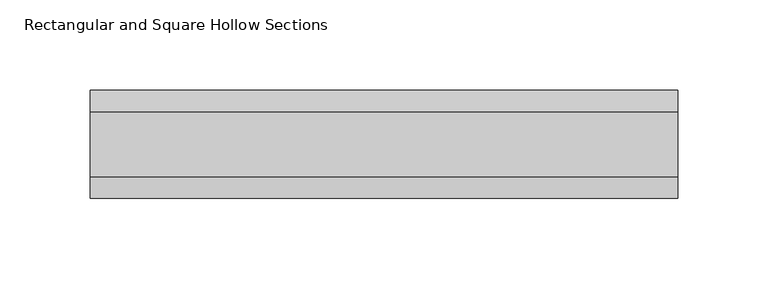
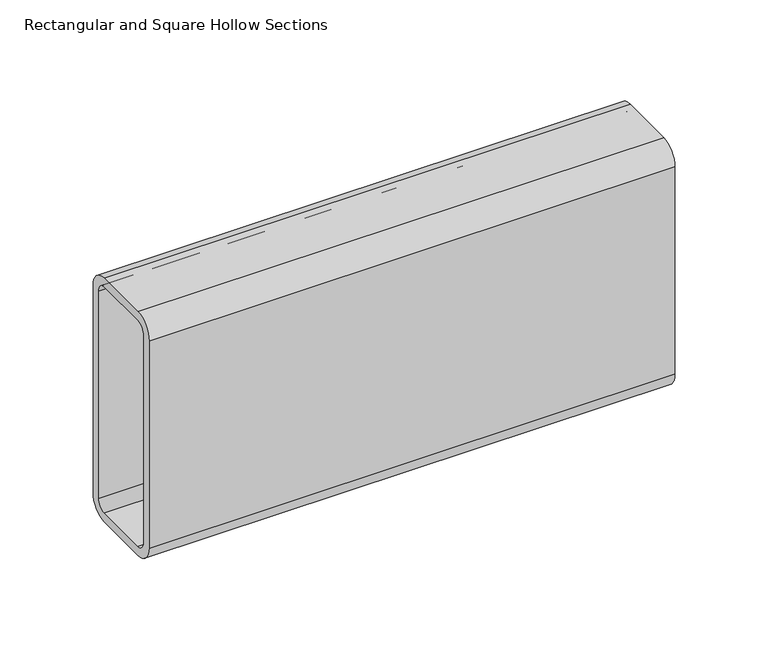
"""IFC4 building model written with IfcOpenShell, lengths in millimetres: beam geometry, Rectangular and Square Hollow Sections : TREC160x60x6."""

from ifc_helpers import new_model, si_unit, point, frame, frame_2d, origin, place, context, project, spatial, polyline, circle_curve, trimmed, segment, composite_curve, outline, extrude, source, transform, mapped, element, save


def rectangular_and_square_hollow_sections_1d2b6f73(model_context):
    return source(origin(), model_context, "Body", "SweptSolid", [
        extrude(outline(composite_curve([segment(polyline([(30.0, 68.0), (30.0, -68.0)]), True, "CONTINUOUS"), segment(trimmed(circle_curve(frame_2d((18.0, -68.0)), 12.0), [point((30.0, -68.0))], [point((18.0, -80.0))], False, "CARTESIAN"), True, "CONTINUOUS"), segment(polyline([(18.0, -80.0), (-18.0, -80.0)]), True, "CONTINUOUS"), segment(trimmed(circle_curve(frame_2d((-18.0, -68.0)), 12.0), [point((-18.0, -80.0))], [point((-30.0, -68.0))], False, "CARTESIAN"), True, "CONTINUOUS"), segment(polyline([(-30.0, -68.0), (-30.0, 68.0)]), True, "CONTINUOUS"), segment(trimmed(circle_curve(frame_2d((-18.0, 68.0)), 12.0), [point((-30.0, 68.0))], [point((-18.0, 80.0))], False, "CARTESIAN"), True, "CONTINUOUS"), segment(polyline([(-18.0, 80.0), (18.0, 80.0)]), True, "CONTINUOUS"), segment(trimmed(circle_curve(frame_2d((18.0, 68.0)), 12.0), [point((18.0, 80.0))], [point((30.0, 68.0))], False, "CARTESIAN"), True, "CONTINUOUS")], self_intersect=False), holes=[composite_curve([segment(trimmed(circle_curve(frame_2d((-18.0, 68.0)), 6.0), [point((-18.0, 74.0))], [point((-24.0, 68.0))], True, "CARTESIAN"), True, "CONTINUOUS"), segment(polyline([(-24.0, 68.0), (-24.0, -68.0)]), True, "CONTINUOUS"), segment(trimmed(circle_curve(frame_2d((-18.0, -68.0)), 6.0), [point((-24.0, -68.0))], [point((-18.0, -74.0))], True, "CARTESIAN"), True, "CONTINUOUS"), segment(polyline([(-18.0, -74.0), (18.0, -74.0)]), True, "CONTINUOUS"), segment(trimmed(circle_curve(frame_2d((18.0, -68.0)), 6.0), [point((18.0, -74.0))], [point((24.0, -68.0))], True, "CARTESIAN"), True, "CONTINUOUS"), segment(polyline([(24.0, -68.0), (24.0, 68.0)]), True, "CONTINUOUS"), segment(trimmed(circle_curve(frame_2d((18.0, 68.0)), 6.0), [point((24.0, 68.0))], [point((18.0, 74.0))], True, "CARTESIAN"), True, "CONTINUOUS"), segment(polyline([(18.0, 74.0), (-18.0, 74.0)]), True, "CONTINUOUS")], self_intersect=False)]), frame((-163.0, 0.0, 0.0), z_axis=(1.0, 0.0, 0.0), x_axis=(0.0, 1.0, 0.0)), (0.0, 0.0, 1.0), 326.0),
    ])


if __name__ == "__main__":
    model = new_model("IFC4")
    model_context = context("Model", 3, world=origin())
    ifc_project = project(units=[si_unit("LENGTHUNIT", "METRE", prefix="MILLI")], contexts=[model_context])
    site = spatial("IfcSite", under=ifc_project)
    building = spatial("IfcBuilding", under=site)
    placement = place(None, origin())
    rectangular_and_square_hollow_sections_shape = rectangular_and_square_hollow_sections_1d2b6f73(model_context)
    element("IfcBeam", 1, ObjectType="Rectangular and Square Hollow Sections : TREC160x60x6", at=placement, inside=building, context=model_context, shape_type="MappedRepresentation", body=[
        mapped(rectangular_and_square_hollow_sections_shape, transform((0.0, 0.0, 0.0), x_axis=(1.0, 0.0, 0.0), y_axis=(0.0, 1.0, 0.0), z_axis=(0.0, 0.0, 1.0))),
    ])
    save(model, "model.ifc")
